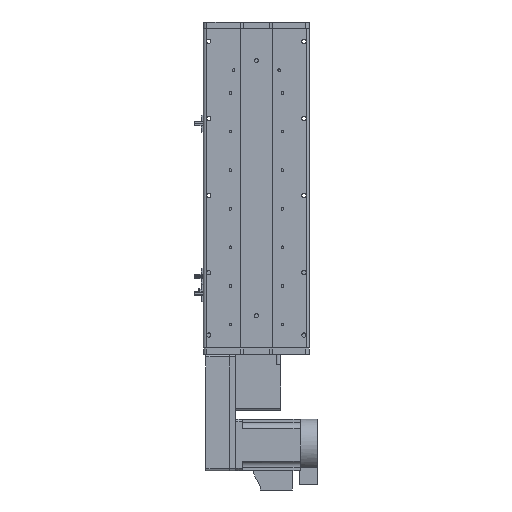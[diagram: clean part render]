
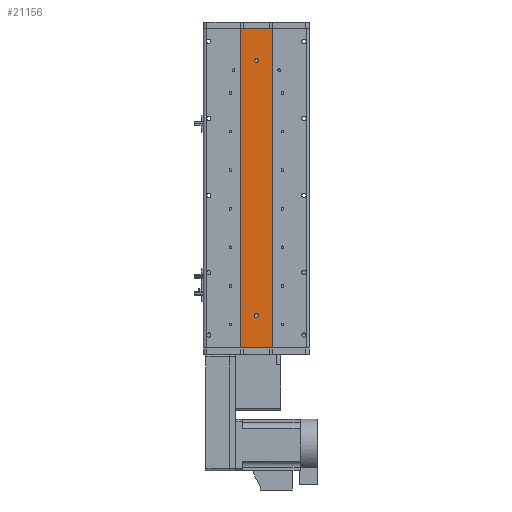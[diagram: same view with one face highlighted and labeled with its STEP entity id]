
A CAD part, front view. The second image highlights one B-rep face of the part: STEP entity #21156.
In plain terms, the highlighted planar face has unit normal (0, -1, 0).
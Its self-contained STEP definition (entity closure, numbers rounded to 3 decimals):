
#1027 = CARTESIAN_POINT ( 'NONE',  ( 25., 1., -248.5 ) ) ;
#1828 = DIRECTION ( 'NONE',  ( 0., 0., -1. ) ) ;
#2373 = CARTESIAN_POINT ( 'NONE',  ( 25., 1., 248.5 ) ) ;
#2595 = AXIS2_PLACEMENT_3D ( 'NONE', #26236, #21594, #2913 ) ;
#2913 = DIRECTION ( 'NONE',  ( 0., 0., 1. ) ) ;
#2971 = VERTEX_POINT ( 'NONE', #15288 ) ;
#2993 = VECTOR ( 'NONE', #46863, 1000. ) ;
#3143 = DIRECTION ( 'NONE',  ( 0., 1., 0. ) ) ;
#4959 = LINE ( 'NONE', #1027, #28347 ) ;
#5112 = CIRCLE ( 'NONE', #26618, 3. ) ;
#5323 = CARTESIAN_POINT ( 'NONE',  ( 0., 1., 198.5 ) ) ;
#7235 = ORIENTED_EDGE ( 'NONE', *, *, #25021, .T. ) ;
#7239 = ORIENTED_EDGE ( 'NONE', *, *, #22519, .T. ) ;
#7905 = EDGE_CURVE ( 'NONE', #17779, #2971, #5112, .T. ) ;
#8318 = FACE_BOUND ( 'NONE', #34441, .T. ) ;
#9430 = CARTESIAN_POINT ( 'NONE',  ( 25., 1., -248.5 ) ) ;
#10052 = DIRECTION ( 'NONE',  ( 0., 0., 1. ) ) ;
#10110 = ORIENTED_EDGE ( 'NONE', *, *, #7905, .T. ) ;
#12046 = ORIENTED_EDGE ( 'NONE', *, *, #57197, .T. ) ;
#13944 = VECTOR ( 'NONE', #1828, 1000. ) ;
#15288 = CARTESIAN_POINT ( 'NONE',  ( 0., 1., 195.5 ) ) ;
#17051 = VERTEX_POINT ( 'NONE', #17373 ) ;
#17373 = CARTESIAN_POINT ( 'NONE',  ( 0., 1., -201.5 ) ) ;
#17779 = VERTEX_POINT ( 'NONE', #51937 ) ;
#18381 = LINE ( 'NONE', #28102, #2993 ) ;
#19395 = LINE ( 'NONE', #2373, #42656 ) ;
#20776 = FACE_BOUND ( 'NONE', #49145, .T. ) ;
#21156 = ADVANCED_FACE ( 'NONE', ( #8318, #20776, #56523 ), #49271, .F. ) ;
#21215 = CARTESIAN_POINT ( 'NONE',  ( 0., 1., -198.5 ) ) ;
#21419 = CIRCLE ( 'NONE', #59472, 3. ) ;
#21594 = DIRECTION ( 'NONE',  ( 0., 1., 0. ) ) ;
#21909 = CARTESIAN_POINT ( 'NONE',  ( 0., 1., -195.5 ) ) ;
#22168 = EDGE_CURVE ( 'NONE', #45533, #27336, #18381, .T. ) ;
#22519 = EDGE_CURVE ( 'NONE', #35761, #17051, #49670, .T. ) ;
#23832 = AXIS2_PLACEMENT_3D ( 'NONE', #31120, #3143, #35789 ) ;
#24761 = CARTESIAN_POINT ( 'NONE',  ( 0., 1., 198.5 ) ) ;
#25021 = EDGE_CURVE ( 'NONE', #41618, #27336, #4959, .T. ) ;
#25126 = ORIENTED_EDGE ( 'NONE', *, *, #42091, .T. ) ;
#25888 = DIRECTION ( 'NONE',  ( 0., 0., 1. ) ) ;
#26236 = CARTESIAN_POINT ( 'NONE',  ( 25., 1., 248.5 ) ) ;
#26349 = CARTESIAN_POINT ( 'NONE',  ( -25., 1., 248.5 ) ) ;
#26618 = AXIS2_PLACEMENT_3D ( 'NONE', #24761, #57419, #29423 ) ;
#27336 = VERTEX_POINT ( 'NONE', #9430 ) ;
#28102 = CARTESIAN_POINT ( 'NONE',  ( 25., 1., 248.5 ) ) ;
#28347 = VECTOR ( 'NONE', #57016, 1000. ) ;
#28817 = ORIENTED_EDGE ( 'NONE', *, *, #22168, .F. ) ;
#29423 = DIRECTION ( 'NONE',  ( 0., 0., 1. ) ) ;
#31120 = CARTESIAN_POINT ( 'NONE',  ( 0., 1., -198.5 ) ) ;
#33452 = ORIENTED_EDGE ( 'NONE', *, *, #36276, .F. ) ;
#34441 = EDGE_LOOP ( 'NONE', ( #50144, #7239 ) ) ;
#34513 = CARTESIAN_POINT ( 'NONE',  ( -25., 1., 248.5 ) ) ;
#35761 = VERTEX_POINT ( 'NONE', #21909 ) ;
#35789 = DIRECTION ( 'NONE',  ( 0., 0., 1. ) ) ;
#36276 = EDGE_CURVE ( 'NONE', #37950, #45533, #19395, .T. ) ;
#37097 = CARTESIAN_POINT ( 'NONE',  ( -25., 1., -248.5 ) ) ;
#37251 = EDGE_LOOP ( 'NONE', ( #7235, #28817, #33452, #25126 ) ) ;
#37943 = DIRECTION ( 'NONE',  ( 0., 1., 0. ) ) ;
#37950 = VERTEX_POINT ( 'NONE', #26349 ) ;
#38719 = LINE ( 'NONE', #34513, #13944 ) ;
#38753 = CARTESIAN_POINT ( 'NONE',  ( 25., 1., 248.5 ) ) ;
#41618 = VERTEX_POINT ( 'NONE', #37097 ) ;
#42091 = EDGE_CURVE ( 'NONE', #37950, #41618, #38719, .T. ) ;
#42656 = VECTOR ( 'NONE', #44416, 1000. ) ;
#44416 = DIRECTION ( 'NONE',  ( 1., 0., 0. ) ) ;
#45533 = VERTEX_POINT ( 'NONE', #38753 ) ;
#46863 = DIRECTION ( 'NONE',  ( 0., 0., -1. ) ) ;
#49145 = EDGE_LOOP ( 'NONE', ( #12046, #10110 ) ) ;
#49230 = AXIS2_PLACEMENT_3D ( 'NONE', #5323, #37943, #10052 ) ;
#49271 = PLANE ( 'NONE',  #2595 ) ;
#49670 = CIRCLE ( 'NONE', #23832, 3. ) ;
#50144 = ORIENTED_EDGE ( 'NONE', *, *, #57885, .T. ) ;
#51937 = CARTESIAN_POINT ( 'NONE',  ( 0., 1., 201.5 ) ) ;
#52097 = CIRCLE ( 'NONE', #49230, 3. ) ;
#53823 = DIRECTION ( 'NONE',  ( 0., 1., 0. ) ) ;
#56523 = FACE_OUTER_BOUND ( 'NONE', #37251, .T. ) ;
#57016 = DIRECTION ( 'NONE',  ( 1., 0., 0. ) ) ;
#57197 = EDGE_CURVE ( 'NONE', #2971, #17779, #52097, .T. ) ;
#57419 = DIRECTION ( 'NONE',  ( 0., 1., 0. ) ) ;
#57885 = EDGE_CURVE ( 'NONE', #17051, #35761, #21419, .T. ) ;
#59472 = AXIS2_PLACEMENT_3D ( 'NONE', #21215, #53823, #25888 ) ;
